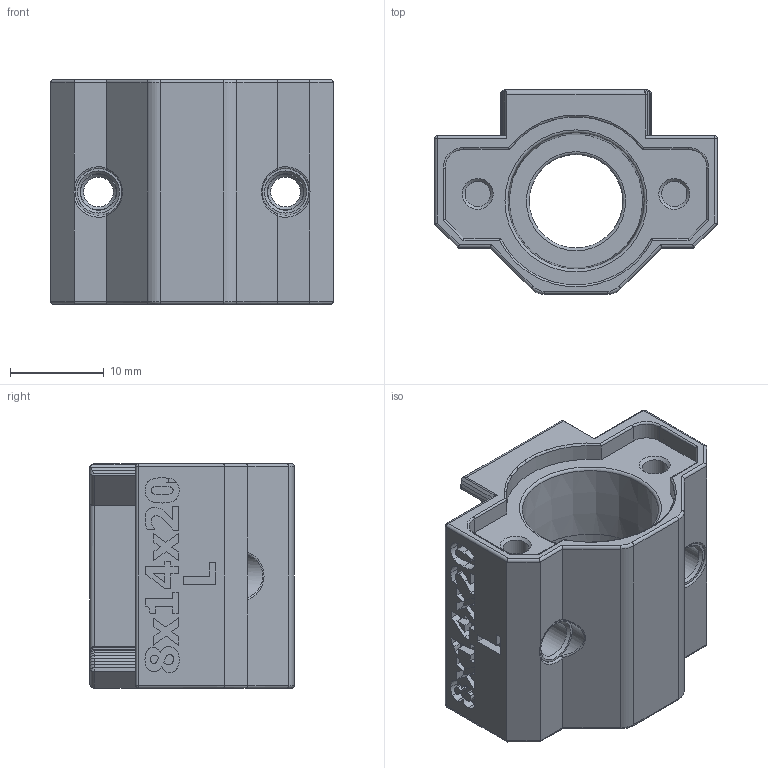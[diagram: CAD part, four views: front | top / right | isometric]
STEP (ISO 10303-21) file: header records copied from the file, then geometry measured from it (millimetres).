
FILE_DESCRIPTION(/* description */ ('FreeCAD Model'),/* implementation_level */ '2;1');
FILE_NAME(/* name */ '\\7800MBZ-PC\Maschinenbau-Projekte\Prusa_MK3_CAD\Linearlager\Linearlager-Sinterbuchsen-MK3-Y-Achse\Export_Step\Caspar_Sinterbuchsen_8x14x20_MK3\PrusaMods_Y-Axis_Bearing_Holder_RJ4JP_+0.30_Loslager.stp',/* time_stamp */ '2023-04-10T17:44:58+02:00',/* author */ ('KHG'),/* organization */ (''),/* preprocessor_version */ 'ST-DEVELOPER v18.1',/* originating_system */ 'Autodesk Inventor 2020',/* authorisation */ 'Unknown');
FILE_SCHEMA (('AUTOMOTIVE_DESIGN { 1 0 10303 214 3 1 1 }'));
Length unit declared in the file: millimetre
Products named in the file (1): PrusaMods_Y-Axis_Bearing_Holder_RJ4JP_+0.30_Loslager
Bounding box: 30.2 x 21.86 x 24 mm (x, y, z)
Volume: 6896.6 mm3; surface area: 4801.1 mm2
Topology: 1 solids, 1 shells, 427 faces, 1102 edges, 707 vertices
Faces by surface type: plane 220, bspline 94, cylinder 86, torus 13, cone 10, sphere 4
Full cylindrical faces by diameter (mm): 2.7 x2, 3.2 x2, 3.9 x2, 5 x2, 10 x1
Entity records: 13750 total; most frequent: CARTESIAN_POINT 3838, ORIENTED_EDGE 2204, DIRECTION 1736, EDGE_CURVE 1102, LINE 736, VECTOR 736, VERTEX_POINT 707, AXIS2_PLACEMENT_3D 500
